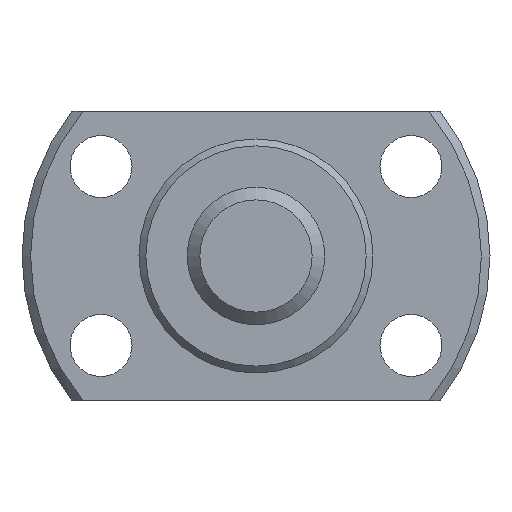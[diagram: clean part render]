
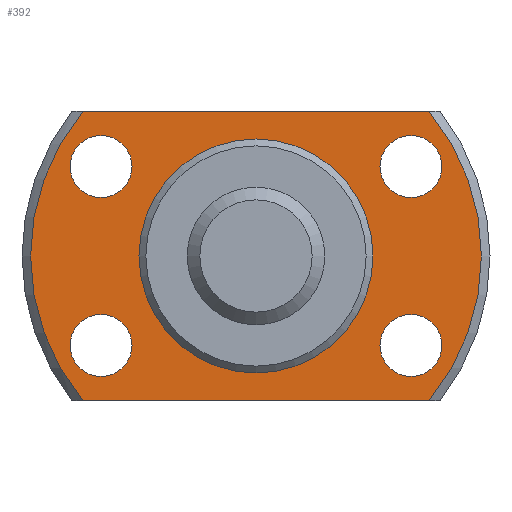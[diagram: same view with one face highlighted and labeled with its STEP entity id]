
A CAD part, left-side view. The second image highlights one B-rep face of the part: STEP entity #392.
In plain terms, the highlighted planar face has unit normal (-1, 0, 0) as drawn and (1, 0, 0) by its records, which use the part's own axes.
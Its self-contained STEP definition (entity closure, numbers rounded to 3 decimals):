
#22=LINE('',#695,#30);
#23=LINE('',#697,#31);
#30=VECTOR('',#570,1000.);
#31=VECTOR('',#571,1000.);
#114=ORIENTED_EDGE('',*,*,#189,.T.);
#115=ORIENTED_EDGE('',*,*,#167,.T.);
#116=ORIENTED_EDGE('',*,*,#190,.T.);
#117=ORIENTED_EDGE('',*,*,#191,.T.);
#118=ORIENTED_EDGE('',*,*,#192,.F.);
#119=ORIENTED_EDGE('',*,*,#193,.F.);
#120=ORIENTED_EDGE('',*,*,#194,.F.);
#121=ORIENTED_EDGE('',*,*,#195,.F.);
#122=ORIENTED_EDGE('',*,*,#188,.F.);
#167=EDGE_CURVE('',#209,#211,#245,.T.);
#188=EDGE_CURVE('',#230,#230,#260,.T.);
#189=EDGE_CURVE('',#231,#209,#22,.T.);
#190=EDGE_CURVE('',#211,#232,#23,.T.);
#191=EDGE_CURVE('',#232,#231,#261,.T.);
#192=EDGE_CURVE('',#233,#233,#262,.T.);
#193=EDGE_CURVE('',#234,#234,#263,.T.);
#194=EDGE_CURVE('',#235,#235,#264,.T.);
#195=EDGE_CURVE('',#236,#236,#265,.T.);
#209=VERTEX_POINT('',#630);
#211=VERTEX_POINT('',#637);
#230=VERTEX_POINT('',#693);
#231=VERTEX_POINT('',#696);
#232=VERTEX_POINT('',#698);
#233=VERTEX_POINT('',#701);
#234=VERTEX_POINT('',#703);
#235=VERTEX_POINT('',#705);
#236=VERTEX_POINT('',#707);
#245=CIRCLE('',#442,16.375);
#260=CIRCLE('',#466,8.3);
#261=CIRCLE('',#468,16.375);
#262=CIRCLE('',#469,2.25);
#263=CIRCLE('',#470,2.25);
#264=CIRCLE('',#471,2.25);
#265=CIRCLE('',#472,2.25);
#298=EDGE_LOOP('',(#114,#115,#116,#117));
#299=EDGE_LOOP('',(#118));
#300=EDGE_LOOP('',(#119));
#301=EDGE_LOOP('',(#120));
#302=EDGE_LOOP('',(#121));
#303=EDGE_LOOP('',(#122));
#348=FACE_BOUND('',#298,.T.);
#349=FACE_BOUND('',#299,.T.);
#350=FACE_BOUND('',#300,.T.);
#351=FACE_BOUND('',#301,.T.);
#352=FACE_BOUND('',#302,.T.);
#353=FACE_BOUND('',#303,.T.);
#373=PLANE('',#467);
#392=ADVANCED_FACE('',(#348,#349,#350,#351,#352,#353),#373,.T.);
#442=AXIS2_PLACEMENT_3D('',#638,#514,#515);
#466=AXIS2_PLACEMENT_3D('',#692,#566,#567);
#467=AXIS2_PLACEMENT_3D('',#694,#568,#569);
#468=AXIS2_PLACEMENT_3D('',#699,#572,#573);
#469=AXIS2_PLACEMENT_3D('',#700,#574,#575);
#470=AXIS2_PLACEMENT_3D('',#702,#576,#577);
#471=AXIS2_PLACEMENT_3D('',#704,#578,#579);
#472=AXIS2_PLACEMENT_3D('',#706,#580,#581);
#514=DIRECTION('',(1.,0.,0.));
#515=DIRECTION('',(0.,0.,-1.));
#566=DIRECTION('',(1.,0.,0.));
#567=DIRECTION('',(0.,0.,-1.));
#568=DIRECTION('',(1.,0.,0.));
#569=DIRECTION('',(0.,0.,-1.));
#570=DIRECTION('',(0.,-1.,0.));
#571=DIRECTION('',(0.,1.,0.));
#572=DIRECTION('',(1.,0.,0.));
#573=DIRECTION('',(0.,0.,-1.));
#574=DIRECTION('',(1.,0.,0.));
#575=DIRECTION('',(0.,0.,-1.));
#576=DIRECTION('',(1.,0.,0.));
#577=DIRECTION('',(0.,0.,-1.));
#578=DIRECTION('',(1.,0.,0.));
#579=DIRECTION('',(0.,0.,-1.));
#580=DIRECTION('',(1.,0.,0.));
#581=DIRECTION('',(0.,0.,-1.));
#630=CARTESIAN_POINT('',(5.,-12.565,10.5));
#637=CARTESIAN_POINT('',(5.,-12.565,-10.5));
#638=CARTESIAN_POINT('',(5.,0.,0.));
#692=CARTESIAN_POINT('',(5.,0.,0.));
#693=CARTESIAN_POINT('',(5.,0.,-8.3));
#694=CARTESIAN_POINT('',(5.,8.3,0.));
#695=CARTESIAN_POINT('',(5.,17.,10.5));
#696=CARTESIAN_POINT('',(5.,12.565,10.5));
#697=CARTESIAN_POINT('',(5.,-17.,-10.5));
#698=CARTESIAN_POINT('',(5.,12.565,-10.5));
#699=CARTESIAN_POINT('',(5.,0.,0.));
#700=CARTESIAN_POINT('',(5.,11.258,6.5));
#701=CARTESIAN_POINT('',(5.,11.258,4.25));
#702=CARTESIAN_POINT('',(5.,-11.258,6.5));
#703=CARTESIAN_POINT('',(5.,-11.258,4.25));
#704=CARTESIAN_POINT('',(5.,-11.258,-6.5));
#705=CARTESIAN_POINT('',(5.,-11.258,-8.75));
#706=CARTESIAN_POINT('',(5.,11.258,-6.5));
#707=CARTESIAN_POINT('',(5.,11.258,-8.75));
